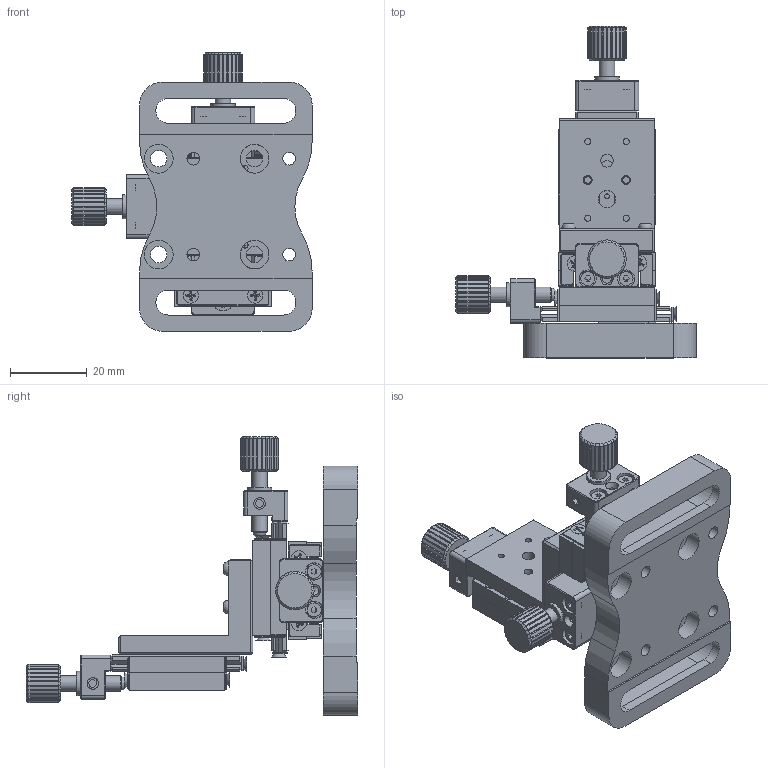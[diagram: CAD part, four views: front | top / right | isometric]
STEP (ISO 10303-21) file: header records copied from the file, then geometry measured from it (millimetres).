
FILE_DESCRIPTION (( 'STEP AP203' ), '1' );
FILE_NAME ('TCB25XYZ-03A.step', '2017-01-10T09:13:32', ( '¦K¬P' ), ( '' ), 'SwSTEP 2.0', 'SolidWorks 2012', '' );
FILE_SCHEMA (( 'CONFIG_CONTROL_DESIGN' ));
Length unit declared in the file: millimetre
Products named in the file (1): TCB25XYZ-03A
Bounding box: 62.65 x 86.55 x 72.65 mm (x, y, z)
Surface area: 28443.4 mm2 (no closed solid volume)
Topology: 0 solids, 85 shells, 1109 faces, 3491 edges, 2436 vertices
Faces by surface type: plane 782, cylinder 234, cone 86, torus 4, sphere 3
Full cylindrical faces by diameter (mm): 1.5 x17, 1.6 x10, 2 x8, 2.3 x2, 2.4 x3, 2.6 x1, 2.8 x2, 3 x3, 3.3 x6, 3.6 x5, 4 x3, 4.2 x4, 4.3 x5, 4.5 x7, 6 x2, 6.3 x3, 7.5 x4
Entity records: 38425 total; most frequent: CARTESIAN_POINT 8216, DIRECTION 6039, ORIENTED_EDGE 5466, EDGE_CURVE 3327, VERTEX_POINT 2409, VECTOR 2171, LINE 2171, AXIS2_PLACEMENT_3D 1934
